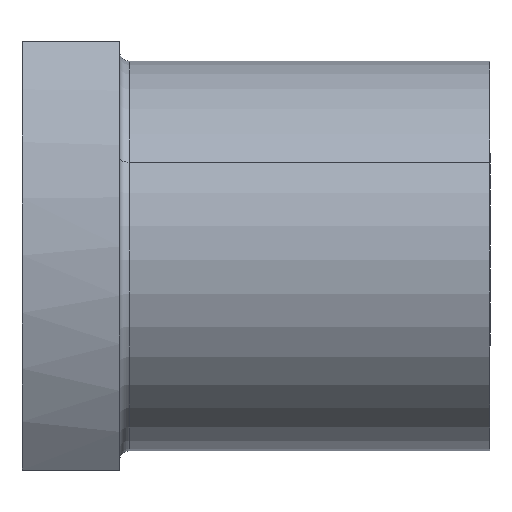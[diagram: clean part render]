
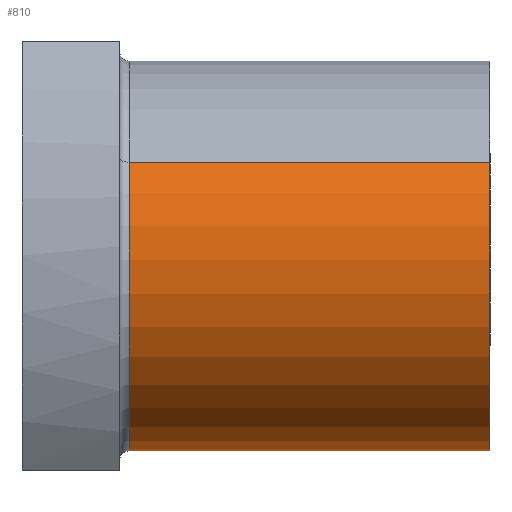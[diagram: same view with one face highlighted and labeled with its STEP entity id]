
A CAD part, top view. The second image highlights one B-rep face of the part: STEP entity #810.
In plain terms, the highlighted cylindrical face has radius 10 mm (diameter 20 mm), a partial arc.
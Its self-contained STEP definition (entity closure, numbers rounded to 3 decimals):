
#579=CARTESIAN_POINT('Vertex',(5.5,-4.794,-8.776)) ;
#582=CARTESIAN_POINT('Axis2P3D Location',(5.5,0.,0.)) ;
#586=CARTESIAN_POINT('Vertex',(5.5,4.794,8.776)) ;
#780=CARTESIAN_POINT('Axis2P3D Location',(66.171,0.,0.)) ;
#785=CARTESIAN_POINT('Line Origine',(66.171,-4.794,-8.776)) ;
#789=CARTESIAN_POINT('Vertex',(24.,-4.794,-8.776)) ;
#792=CARTESIAN_POINT('Axis2P3D Location',(24.,0.,0.)) ;
#796=CARTESIAN_POINT('Vertex',(24.,4.794,8.776)) ;
#799=CARTESIAN_POINT('Line Origine',(66.171,4.794,8.776)) ;
#583=DIRECTION('Axis2P3D Direction',(-1.,0.,-0.)) ;
#781=DIRECTION('Axis2P3D Direction',(-1.,0.,0.)) ;
#782=DIRECTION('Axis2P3D XDirection',(0.,-0.479,-0.878)) ;
#786=DIRECTION('Vector Direction',(-1.,0.,0.)) ;
#793=DIRECTION('Axis2P3D Direction',(-1.,0.,0.)) ;
#800=DIRECTION('Vector Direction',(-1.,0.,0.)) ;
#584=AXIS2_PLACEMENT_3D('Circle Axis2P3D',#582,#583,$) ;
#783=AXIS2_PLACEMENT_3D('Cylinder Axis2P3D',#780,#781,#782) ;
#794=AXIS2_PLACEMENT_3D('Circle Axis2P3D',#792,#793,$) ;
#805=ORIENTED_EDGE('',*,*,#791,.F.) ;
#806=ORIENTED_EDGE('',*,*,#798,.F.) ;
#807=ORIENTED_EDGE('',*,*,#803,.T.) ;
#808=ORIENTED_EDGE('',*,*,#588,.T.) ;
#787=VECTOR('Line Direction',#786,1.) ;
#801=VECTOR('Line Direction',#800,1.) ;
#810=ADVANCED_FACE('ATM10',(#809),#784,.T.) ;
#585=CIRCLE('generated circle',#584,10.) ;
#795=CIRCLE('generated circle',#794,10.) ;
#784=CYLINDRICAL_SURFACE('generated cylinder',#783,10.) ;
#588=EDGE_CURVE('',#587,#580,#585,.F.) ;
#791=EDGE_CURVE('',#790,#580,#788,.T.) ;
#798=EDGE_CURVE('',#797,#790,#795,.F.) ;
#803=EDGE_CURVE('',#797,#587,#802,.T.) ;
#804=EDGE_LOOP('',(#805,#806,#807,#808)) ;
#809=FACE_OUTER_BOUND('',#804,.T.) ;
#788=LINE('Line',#785,#787) ;
#802=LINE('Line',#799,#801) ;
#580=VERTEX_POINT('',#579) ;
#587=VERTEX_POINT('',#586) ;
#790=VERTEX_POINT('',#789) ;
#797=VERTEX_POINT('',#796) ;
